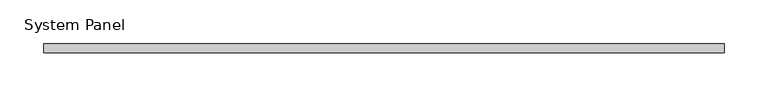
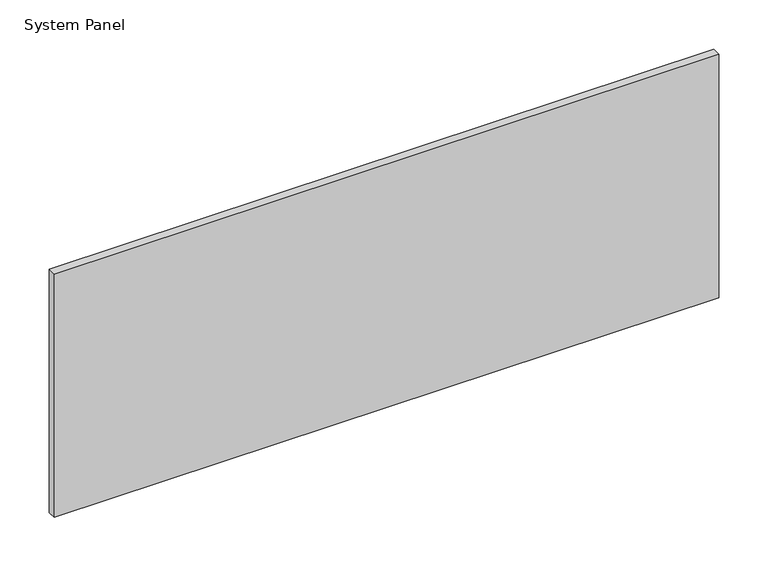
"""IFC4 building model written with IfcOpenShell, lengths in millimetres: plate geometry, System Panel : стекло_смещение_0."""

from ifc_helpers import new_model, si_unit, origin, origin_with_axes, place, context, project, spatial, polyline, outline, extrude, source, transform, mapped, element, save


def system_panel_bd4f4bc2(model_context):
    return source(origin(), model_context, "Body", "SweptSolid", [
        extrude(outline(polyline([(387.5, -5.0), (-387.5, -5.0), (-387.5, 5.0), (387.5, 5.0), (387.5, -5.0)])), origin_with_axes(), (0.0, 0.0, 1.0), 300.0),
    ])


if __name__ == "__main__":
    model = new_model("IFC4")
    model_context = context("Model", 3, world=origin())
    ifc_project = project(units=[si_unit("LENGTHUNIT", "METRE", prefix="MILLI")], contexts=[model_context])
    site = spatial("IfcSite", under=ifc_project)
    building = spatial("IfcBuilding", under=site)
    placement = place(None, origin())
    system_panel_shape = system_panel_bd4f4bc2(model_context)
    element("IfcPlate", 1, ObjectType="System Panel : стекло_смещение_0", at=placement, inside=building, context=model_context, shape_type="MappedRepresentation", body=[
        mapped(system_panel_shape, transform((0.0, 0.0, 0.0), x_axis=(1.0, 0.0, 0.0), y_axis=(0.0, 1.0, 0.0), z_axis=(0.0, 0.0, 1.0))),
    ])
    save(model, "model.ifc")
